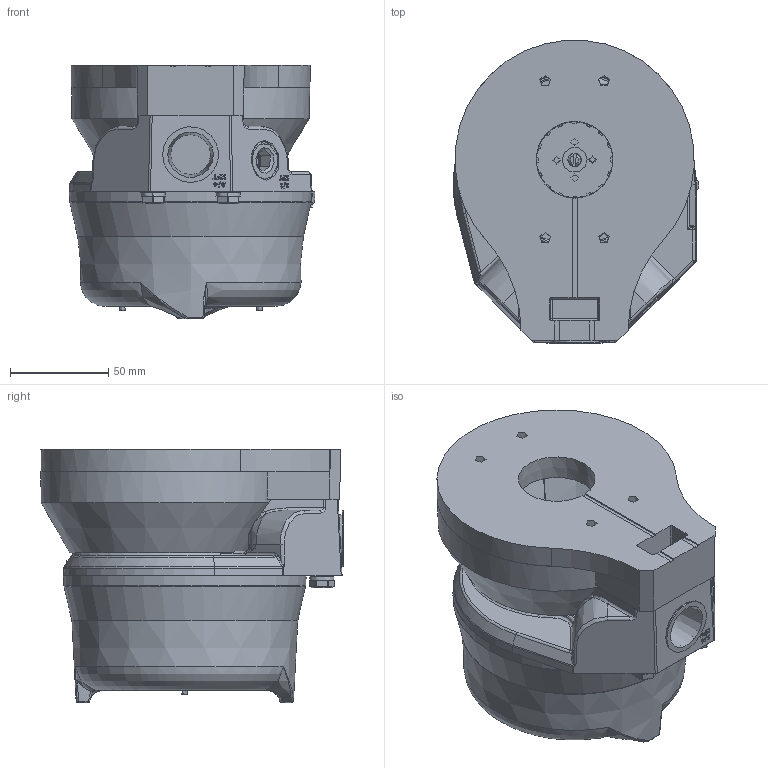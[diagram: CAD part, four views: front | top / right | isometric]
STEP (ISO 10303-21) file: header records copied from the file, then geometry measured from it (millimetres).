
FILE_DESCRIPTION(/* description */ ('Quartz w/ Extended VI & Plate'),/* implementation_level */ '2;1');
FILE_NAME(/* name */ 'C:\Users\ffmbeskema\OneDrive - Neles\Desktop\Quartz_ExtVI_Plate1.stp',/* time_stamp */ '2022-02-09T11:53:39-06:00',/* author */ ('ffmbeskema'),/* organization */ (''),/* preprocessor_version */ 'ST-DEVELOPER v17',/* originating_system */ 'Autodesk Inventor 2018',/* authorisation */ '');
FILE_SCHEMA (('AUTOMOTIVE_DESIGN { 1 0 10303 214 3 1 1 }'));
Length unit declared in the file: inch
Products named in the file (1): Part102
Bounding box: 125.17 x 154.36 x 129.11 mm (x, y, z)
Volume: 585584.3 mm3; surface area: 253232.9 mm2
Topology: 3 solids, 10 shells, 2847 faces, 8013 edges, 5167 vertices
Faces by surface type: plane 1528, cylinder 493, bspline 309, cone 295, torus 146, sphere 76
Full cylindrical faces by diameter (mm): 1.575 x4, 1.651 x2, 2.3 x2, 2.642 x2, 3.251 x2, 3.429 x2, 3.505 x1, 3.937 x2, 3.973 x2, 3.988 x2, 4 x1, 4.978 x2, 5.387 x8, 6.35 x13, 6.375 x2, 6.38 x1, 6.452 x2, 6.858 x1, 7.137 x4, 7.925 x6, 9.525 x4, 9.652 x2, 10.287 x2, 10.414 x2, 12.573 x2, 12.7 x2, 12.827 x1, 15.875 x1, 16.662 x1, 18.644 x6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
Entity records: 110144 total; most frequent: CARTESIAN_POINT 35127, ORIENTED_EDGE 15840, DIRECTION 14316, EDGE_CURVE 7920, VERTEX_POINT 5167, AXIS2_PLACEMENT_3D 4981, LINE 4354, VECTOR 4354
